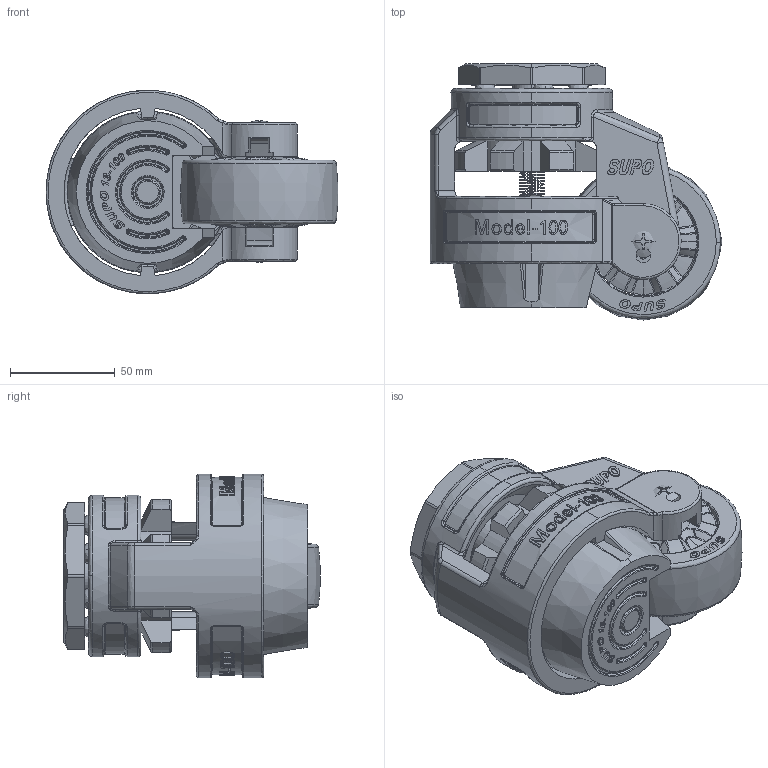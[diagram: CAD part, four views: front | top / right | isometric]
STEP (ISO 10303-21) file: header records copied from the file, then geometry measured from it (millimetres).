
FILE_DESCRIPTION (( 'STEP AP214' ), '1' );
FILE_NAME ('HT13-03-100S-643.STEP', '2025-10-01T09:44:44', ( '' ), ( '' ), 'SwSTEP 2.0', 'SolidWorks 2022', '' );
FILE_SCHEMA (( 'AUTOMOTIVE_DESIGN' ));
Length unit declared in the file: millimetre
Products named in the file (1): HT13-03-100S-643
Bounding box: 139.19 x 122.11 x 97 mm (x, y, z)
Surface area: 103197.2 mm2 (no closed solid volume)
Topology: 0 solids, 20 shells, 1628 faces, 5961 edges, 4130 vertices
Faces by surface type: bspline 787, plane 519, cylinder 256, cone 66
Entity records: 105607 total; most frequent: CARTESIAN_POINT 46780, ORIENTED_EDGE 9539, EDGE_CURVE 5869, DIRECTION 5421, VERTEX_POINT 4130, LINE 2779, VECTOR 2779, B_SPLINE_CURVE_WITH_KNOTS 2177
